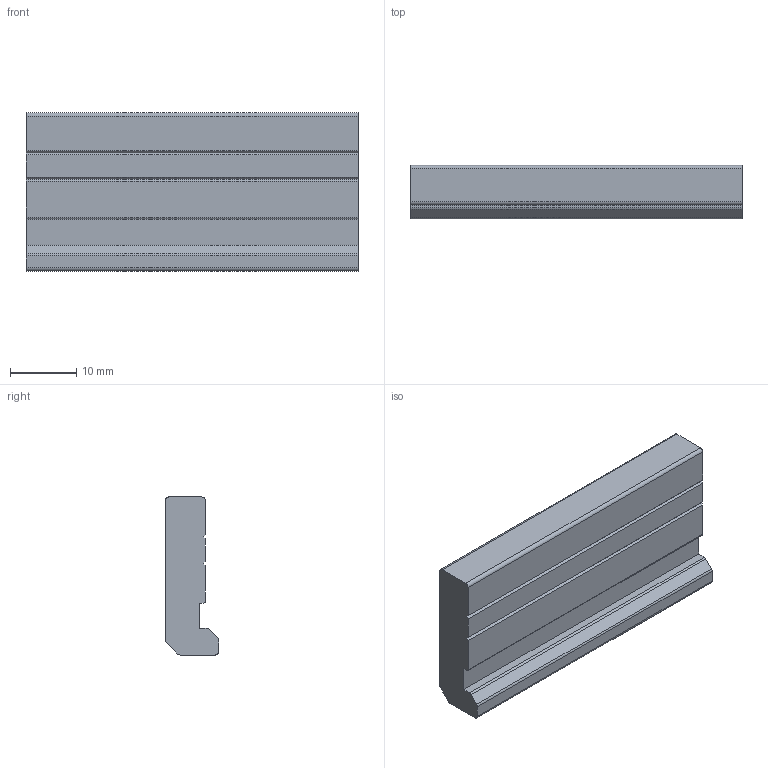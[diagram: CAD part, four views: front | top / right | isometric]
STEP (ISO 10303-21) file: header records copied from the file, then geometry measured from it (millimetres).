
FILE_DESCRIPTION(('STEP AP214'),'1');
FILE_NAME('PS30-.stp','2017-07-25T06:51:13',(' '),(' '),'Spatial InterOp 3D',' ',' ');
FILE_SCHEMA(('automotive_design'));
Length unit declared in the file: millimetre
Products named in the file (1): PS30-
Bounding box: 50 x 8 x 23.8 mm (x, y, z)
Volume: 7193.7 mm3; surface area: 3437.2 mm2
Topology: 1 solids, 1 shells, 26 faces, 72 edges, 48 vertices
Faces by surface type: plane 18, cylinder 8
Entity records: 1056 total; most frequent: CARTESIAN_POINT 147, ORIENTED_EDGE 144, DIRECTION 142, EDGE_CURVE 72, LINE 56, VECTOR 56, VERTEX_POINT 48, AXIS2_PLACEMENT_3D 43
